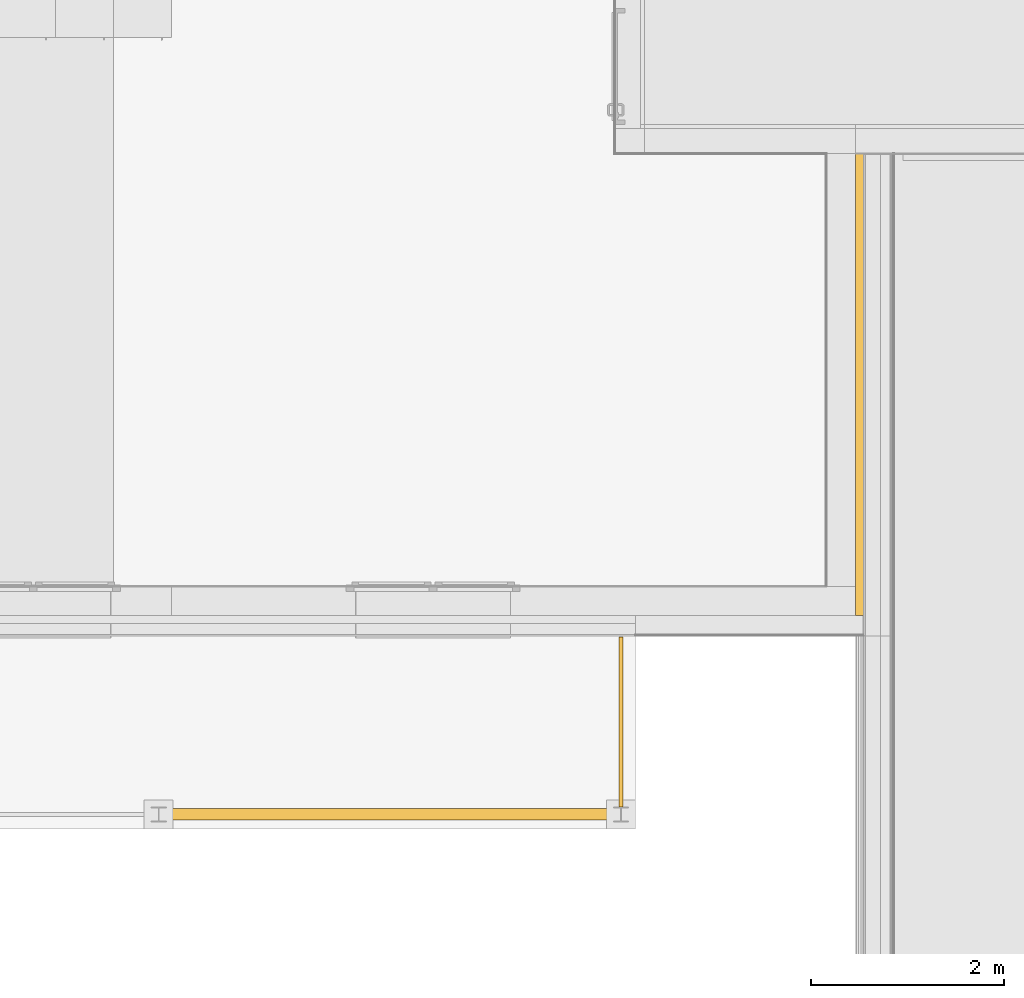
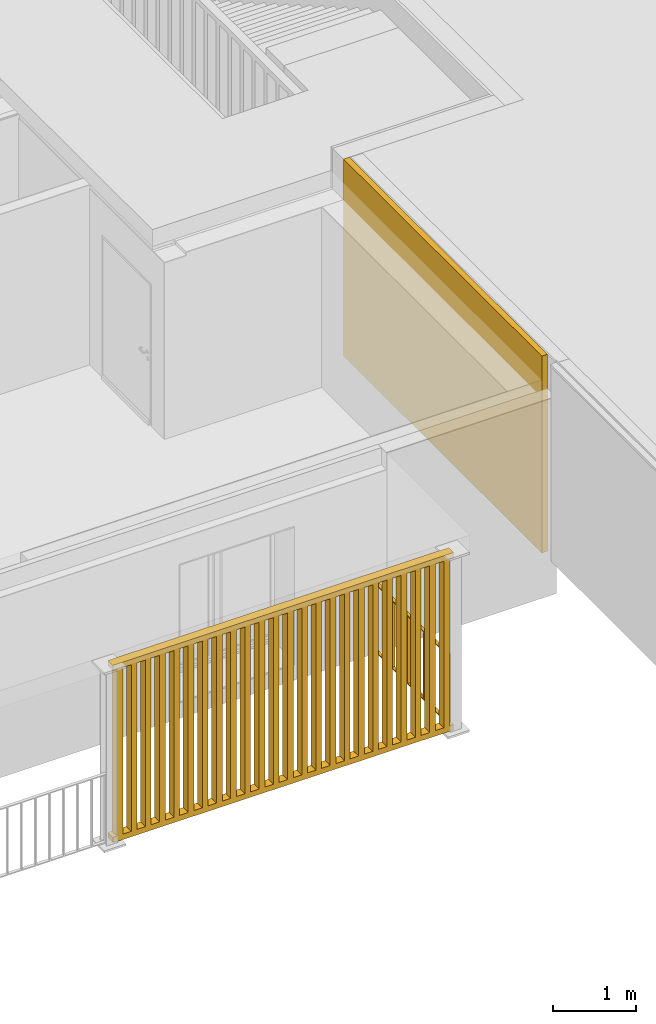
# One storey, part 28 of 34: 2 railings, 1 covering.
"""IFC4 building model written with IfcOpenShell, lengths in millimetres."""

from ifc_helpers import new_model, entity, si_unit, converted_unit, derived_unit, direction, frame, origin_with_axes, place, context, subcontext, project, spatial, polygons, material, constituent, constituent_set, type_object, element, save


model = new_model("IFC4")

# Units and contexts
model_context = context("Model", 3, precision=0.01, world=origin_with_axes(), true_north=direction((0.0, 1.0)))
body_context = subcontext(model_context, "Body", "Model", "MODEL_VIEW")
ifc_project = project(units=[si_unit("LENGTHUNIT", "METRE", prefix="MILLI"), si_unit("AREAUNIT", "SQUARE_METRE"), si_unit("VOLUMEUNIT", "CUBIC_METRE"), converted_unit("PLANEANGLEUNIT", "DEGREE", entity("IfcPlaneAngleMeasure", 0.0174532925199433), si_unit("PLANEANGLEUNIT", "RADIAN"), dimensions=[0, 0, 0, 0, 0, 0, 0]), converted_unit("TIMEUNIT", "Year", entity("IfcTimeMeasure", 31557600.0), si_unit("TIMEUNIT", "SECOND"), dimensions=[0, 0, 1, 0, 0, 0, 0]), si_unit("MASSUNIT", "GRAM", prefix="KILO"), si_unit("THERMODYNAMICTEMPERATUREUNIT", "DEGREE_CELSIUS"), si_unit("LUMINOUSINTENSITYUNIT", "LUMEN"), si_unit("ENERGYUNIT", "JOULE", prefix="MEGA"), derived_unit("THERMALCONDUCTANCEUNIT", [(si_unit("POWERUNIT", "WATT"), 1), (si_unit("LENGTHUNIT", "METRE"), -1), (si_unit("THERMODYNAMICTEMPERATUREUNIT", "KELVIN"), -1)]), derived_unit("SPECIFICHEATCAPACITYUNIT", [(si_unit("ENERGYUNIT", "JOULE"), 1), (si_unit("MASSUNIT", "GRAM", prefix="KILO"), -1), (si_unit("THERMODYNAMICTEMPERATUREUNIT", "KELVIN"), -1)]), derived_unit("MASSDENSITYUNIT", [(si_unit("MASSUNIT", "GRAM", prefix="KILO"), 1), (si_unit("VOLUMEUNIT", "CUBIC_METRE"), -1)])], contexts=[model_context])

# Site, building, storey
site_placement = place(None, origin_with_axes())
site = spatial("IfcSite", under=ifc_project, at=site_placement, Name="Gelände", CompositionType="ELEMENT")
building_placement = place(site_placement, origin_with_axes())
building = spatial("IfcBuilding", under=site, at=building_placement, Name="Gebäude", CompositionType="ELEMENT")
storey_placement = place(building_placement, frame((0.0, 0.0, 2900.0), z_axis=(0.0, 0.0, 1.0), x_axis=(1.0, 0.0, 0.0)))
storey = spatial("IfcBuildingStorey", under=building, at=storey_placement, Name="1.OG", CompositionType="ELEMENT", Elevation=2900.0)

# Railings
ifc_material_1 = material(Name="Stahl")
ifc_constituent_1 = constituent(ifc_material_1, Name="Stahl 1")
ifc_constituent_2 = constituent(ifc_material_1, Name="Stahl 2")
ifc_constituent_3 = constituent(ifc_material_1, Name="Stahl 3")
ifc_constituent_4 = constituent(ifc_material_1, Name="Stahl 4")
ifc_constituent_5 = constituent(ifc_material_1, Name="Stahl 5")
ifc_constituent_6 = constituent(ifc_material_1, Name="Stahl 6")
ifc_constituent_7 = constituent(ifc_material_1, Name="Stahl 7")
ifc_constituent_8 = constituent(ifc_material_1, Name="Stahl 8")
ifc_constituent_9 = constituent(ifc_material_1, Name="Stahl 9")
ifc_constituent_10 = constituent(ifc_material_1, Name="Stahl 10")
ifc_constituent_11 = constituent(ifc_material_1, Name="Stahl 11")
ifc_constituent_12 = constituent(ifc_material_1, Name="Stahl 12")
ifc_constituent_13 = constituent(ifc_material_1, Name="Stahl 13")
ifc_constituent_14 = constituent(ifc_material_1, Name="Stahl 14")
ifc_constituent_set_1 = constituent_set(constituents=[ifc_constituent_1, ifc_constituent_2, ifc_constituent_3, ifc_constituent_4, ifc_constituent_5, ifc_constituent_6, ifc_constituent_7, ifc_constituent_8, ifc_constituent_9, ifc_constituent_10, ifc_constituent_11, ifc_constituent_12, ifc_constituent_13, ifc_constituent_14])
railing_type = type_object("IfcRailingType", Name="Geländerart", PredefinedType="NOTDEFINED")
railing_1_placement = place(storey_placement, frame((15487.99581849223, 21105.09674077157, 49.99999999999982), z_axis=(0.0, 0.0, 1.0), x_axis=(1.0, 0.0, 0.0)))
element("IfcRailing", 1, at=railing_1_placement, inside=storey, type_object=railing_type, material=ifc_constituent_set_1, Name="Geländer-003", PredefinedType="NOTDEFINED", context=body_context, shape_type="Tessellation", body=[
    polygons([(19.99999999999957, 83.49999999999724, 0.0), (-19.99999999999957, 83.49999999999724, 0.0), (-19.99999999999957, 83.49999999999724, 1000.0), (19.99999999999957, 83.49999999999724, 1000.0), (19.99999999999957, 68.49999999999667, 0.0), (-19.99999999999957, 68.49999999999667, 0.0), (-19.99999999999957, 68.49999999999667, 1000.0), (19.99999999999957, 68.49999999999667, 1000.0)], [[[1, 2, 3, 4]], [[1, 5, 6, 2]], [[2, 6, 7, 3]], [[4, 3, 7, 8]], [[5, 1, 4, 8]], [[6, 5, 8, 7]]], closed=True),
    polygons([(-22.50000000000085, 75.99999999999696, 1000.0), (-22.50000000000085, 75.99999999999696, 984.9999999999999), (-22.50000000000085, 68.49999999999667, 984.9999999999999), (-22.50000000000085, 68.49999999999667, 1000.0), (22.50000000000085, 75.99999999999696, 1000.0), (22.50000000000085, 75.99999999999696, 984.9999999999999), (22.50000000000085, 68.49999999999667, 984.9999999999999), (22.50000000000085, 68.49999999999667, 1000.0)], [[[1, 2, 3, 4]], [[1, 5, 6, 2]], [[2, 6, 7, 3]], [[4, 3, 7, 8]], [[5, 1, 4, 8]], [[6, 5, 8, 7]]], closed=True),
    polygons([(19.99999999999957, 1830.000000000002, 0.0), (-19.99999999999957, 1830.000000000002, 0.0), (-19.99999999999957, 1830.000000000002, 1000.0), (19.99999999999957, 1830.000000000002, 1000.0), (19.99999999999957, 1815.000000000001, 0.0), (-19.99999999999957, 1815.000000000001, 0.0), (-19.99999999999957, 1815.000000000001, 1000.0), (19.99999999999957, 1815.000000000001, 1000.0)], [[[1, 2, 3, 4]], [[1, 5, 6, 2]], [[2, 6, 7, 3]], [[4, 3, 7, 8]], [[5, 1, 4, 8]], [[6, 5, 8, 7]]], closed=True),
    polygons([(22.50000000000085, 1822.500000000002, 1000.0), (22.50000000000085, 1822.500000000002, 984.9999999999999), (22.50000000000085, 1830.000000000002, 984.9999999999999), (22.50000000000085, 1830.000000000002, 1000.0), (-22.50000000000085, 1822.500000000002, 1000.0), (-22.50000000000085, 1822.500000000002, 984.9999999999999), (-22.50000000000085, 1830.000000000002, 984.9999999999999), (-22.50000000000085, 1830.000000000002, 1000.0)], [[[1, 2, 3, 4]], [[1, 5, 6, 2]], [[2, 6, 7, 3]], [[4, 3, 7, 8]], [[5, 1, 4, 8]], [[6, 5, 8, 7]]], closed=True),
    polygons([(22.50000000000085, 75.99999999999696, 0.9999999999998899), (22.50000000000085, 75.99999999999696, -14.00000000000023), (22.50000000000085, 1822.500000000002, -14.00000000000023), (22.50000000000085, 1822.500000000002, 0.9999999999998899), (-22.50000000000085, 75.99999999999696, 0.9999999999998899), (-22.50000000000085, 75.99999999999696, -14.00000000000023), (-22.50000000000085, 1822.500000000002, -14.00000000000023), (-22.50000000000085, 1822.500000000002, 0.9999999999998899)], [[[1, 2, 3, 4]], [[1, 5, 6, 2]], [[2, 6, 7, 3]], [[4, 3, 7, 8]], [[5, 1, 4, 8]], [[6, 5, 8, 7]]], closed=True),
    polygons([(22.50000000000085, 75.99999999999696, 1000.0), (22.50000000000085, 75.99999999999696, 984.9999999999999), (22.50000000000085, 1822.500000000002, 984.9999999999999), (22.50000000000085, 1822.500000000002, 1000.0), (-22.50000000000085, 75.99999999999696, 1000.0), (-22.50000000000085, 75.99999999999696, 984.9999999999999), (-22.50000000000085, 1822.500000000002, 984.9999999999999), (-22.50000000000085, 1822.500000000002, 1000.0)], [[[1, 2, 3, 4]], [[1, 5, 6, 2]], [[2, 6, 7, 3]], [[4, 3, 7, 8]], [[5, 1, 4, 8]], [[6, 5, 8, 7]]], closed=True),
    polygons([(22.50000000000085, 277.5555555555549, 0.0), (-22.50000000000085, 277.5555555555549, 0.0), (-22.50000000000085, 277.5555555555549, 985.2293691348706), (22.49999999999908, 277.5555555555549, 985.2293691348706), (22.50000000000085, 262.5555555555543, 0.0), (-22.50000000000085, 262.5555555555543, 0.0), (-22.50000000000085, 262.5555555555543, 985.2293691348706), (22.49999999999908, 262.5555555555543, 985.2293691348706)], [[[1, 2, 3, 4]], [[1, 5, 6, 2]], [[2, 6, 7, 3]], [[4, 3, 7, 8]], [[5, 1, 4, 8]], [[6, 5, 8, 7]]], closed=True),
    polygons([(22.50000000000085, 471.611111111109, 0.0), (-22.50000000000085, 471.611111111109, 0.0), (-22.50000000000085, 471.611111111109, 985.2293691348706), (22.49999999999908, 471.611111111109, 985.2293691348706), (22.50000000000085, 456.6111111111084, 0.0), (-22.50000000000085, 456.6111111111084, 0.0), (-22.50000000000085, 456.6111111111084, 985.2293691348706), (22.49999999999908, 456.6111111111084, 985.2293691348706)], [[[1, 2, 3, 4]], [[1, 5, 6, 2]], [[2, 6, 7, 3]], [[4, 3, 7, 8]], [[5, 1, 4, 8]], [[6, 5, 8, 7]]], closed=True),
    polygons([(22.50000000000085, 665.6666666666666, 0.0), (-22.50000000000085, 665.6666666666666, 0.0), (-22.50000000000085, 665.6666666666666, 985.2293691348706), (22.49999999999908, 665.6666666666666, 985.2293691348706), (22.50000000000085, 650.6666666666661, 0.0), (-22.50000000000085, 650.6666666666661, 0.0), (-22.50000000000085, 650.6666666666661, 985.2293691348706), (22.49999999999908, 650.6666666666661, 985.2293691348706)], [[[1, 2, 3, 4]], [[1, 5, 6, 2]], [[2, 6, 7, 3]], [[4, 3, 7, 8]], [[5, 1, 4, 8]], [[6, 5, 8, 7]]], closed=True),
    polygons([(22.50000000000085, 859.7222222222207, 0.0), (-22.50000000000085, 859.7222222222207, 0.0), (-22.50000000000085, 859.7222222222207, 985.2293691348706), (22.49999999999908, 859.7222222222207, 985.2293691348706), (22.50000000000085, 844.7222222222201, 0.0), (-22.50000000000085, 844.7222222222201, 0.0), (-22.50000000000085, 844.7222222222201, 985.2293691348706), (22.49999999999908, 844.7222222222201, 985.2293691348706)], [[[1, 2, 3, 4]], [[1, 5, 6, 2]], [[2, 6, 7, 3]], [[4, 3, 7, 8]], [[5, 1, 4, 8]], [[6, 5, 8, 7]]], closed=True),
    polygons([(22.50000000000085, 1053.777777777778, 0.0), (-22.50000000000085, 1053.777777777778, 0.0), (-22.50000000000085, 1053.777777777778, 985.2293691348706), (22.49999999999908, 1053.777777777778, 985.2293691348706), (22.50000000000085, 1038.777777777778, 0.0), (-22.50000000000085, 1038.777777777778, 0.0), (-22.50000000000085, 1038.777777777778, 985.2293691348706), (22.49999999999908, 1038.777777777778, 985.2293691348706)], [[[1, 2, 3, 4]], [[1, 5, 6, 2]], [[2, 6, 7, 3]], [[4, 3, 7, 8]], [[5, 1, 4, 8]], [[6, 5, 8, 7]]], closed=True),
    polygons([(22.50000000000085, 1247.833333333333, 0.0), (-22.50000000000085, 1247.833333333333, 0.0), (-22.50000000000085, 1247.833333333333, 985.2293691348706), (22.49999999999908, 1247.833333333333, 985.2293691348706), (22.50000000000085, 1232.833333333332, 0.0), (-22.50000000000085, 1232.833333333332, 0.0), (-22.50000000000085, 1232.833333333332, 985.2293691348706), (22.49999999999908, 1232.833333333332, 985.2293691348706)], [[[1, 2, 3, 4]], [[1, 5, 6, 2]], [[2, 6, 7, 3]], [[4, 3, 7, 8]], [[5, 1, 4, 8]], [[6, 5, 8, 7]]], closed=True),
    polygons([(22.50000000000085, 1441.88888888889, 0.0), (-22.50000000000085, 1441.88888888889, 0.0), (-22.50000000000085, 1441.88888888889, 985.2293691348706), (22.49999999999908, 1441.88888888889, 985.2293691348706), (22.50000000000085, 1426.88888888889, 0.0), (-22.50000000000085, 1426.88888888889, 0.0), (-22.50000000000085, 1426.88888888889, 985.2293691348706), (22.49999999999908, 1426.88888888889, 985.2293691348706)], [[[1, 2, 3, 4]], [[1, 5, 6, 2]], [[2, 6, 7, 3]], [[4, 3, 7, 8]], [[5, 1, 4, 8]], [[6, 5, 8, 7]]], closed=True),
    polygons([(22.50000000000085, 1635.944444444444, 0.0), (-22.50000000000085, 1635.944444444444, 0.0), (-22.50000000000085, 1635.944444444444, 985.2293691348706), (22.49999999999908, 1635.944444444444, 985.2293691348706), (22.50000000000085, 1620.944444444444, 0.0), (-22.50000000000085, 1620.944444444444, 0.0), (-22.50000000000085, 1620.944444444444, 985.2293691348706), (22.49999999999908, 1620.944444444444, 985.2293691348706)], [[[1, 2, 3, 4]], [[1, 5, 6, 2]], [[2, 6, 7, 3]], [[4, 3, 7, 8]], [[5, 1, 4, 8]], [[6, 5, 8, 7]]], closed=True),
])
ifc_material_2 = material(Name="Vollholzwerkstoff")
ifc_constituent_15 = constituent(ifc_material_2, Name="Vollholzwerkstoff 1")
ifc_constituent_16 = constituent(ifc_material_2, Name="Vollholzwerkstoff 2")
ifc_constituent_17 = constituent(ifc_material_2, Name="Vollholzwerkstoff 3")
ifc_constituent_18 = constituent(ifc_material_2, Name="Vollholzwerkstoff 4")
ifc_constituent_19 = constituent(ifc_material_2, Name="Vollholzwerkstoff 5")
ifc_constituent_20 = constituent(ifc_material_2, Name="Vollholzwerkstoff 6")
ifc_constituent_21 = constituent(ifc_material_2, Name="Vollholzwerkstoff 7")
ifc_constituent_22 = constituent(ifc_material_2, Name="Vollholzwerkstoff 8")
ifc_constituent_23 = constituent(ifc_material_2, Name="Vollholzwerkstoff 9")
ifc_constituent_24 = constituent(ifc_material_2, Name="Vollholzwerkstoff 10")
ifc_constituent_25 = constituent(ifc_material_2, Name="Vollholzwerkstoff 11")
ifc_constituent_26 = constituent(ifc_material_2, Name="Vollholzwerkstoff 12")
ifc_constituent_27 = constituent(ifc_material_2, Name="Vollholzwerkstoff 13")
ifc_constituent_28 = constituent(ifc_material_2, Name="Vollholzwerkstoff 14")
ifc_constituent_29 = constituent(ifc_material_2, Name="Vollholzwerkstoff 15")
ifc_constituent_30 = constituent(ifc_material_2, Name="Vollholzwerkstoff 16")
ifc_constituent_31 = constituent(ifc_material_2, Name="Vollholzwerkstoff 17")
ifc_constituent_32 = constituent(ifc_material_2, Name="Vollholzwerkstoff 18")
ifc_constituent_33 = constituent(ifc_material_2, Name="Vollholzwerkstoff 19")
ifc_constituent_34 = constituent(ifc_material_2, Name="Vollholzwerkstoff 20")
ifc_constituent_35 = constituent(ifc_material_2, Name="Vollholzwerkstoff 21")
ifc_constituent_36 = constituent(ifc_material_2, Name="Vollholzwerkstoff 22")
ifc_constituent_37 = constituent(ifc_material_2, Name="Vollholzwerkstoff 23")
ifc_constituent_38 = constituent(ifc_material_2, Name="Vollholzwerkstoff 24")
ifc_constituent_39 = constituent(ifc_material_2, Name="Vollholzwerkstoff 25")
ifc_constituent_40 = constituent(ifc_material_2, Name="Vollholzwerkstoff 26")
ifc_constituent_set_2 = constituent_set(constituents=[ifc_constituent_15, ifc_constituent_16, ifc_constituent_17, ifc_constituent_18, ifc_constituent_19, ifc_constituent_20, ifc_constituent_21, ifc_constituent_22, ifc_constituent_23, ifc_constituent_24, ifc_constituent_25, ifc_constituent_26, ifc_constituent_27, ifc_constituent_28, ifc_constituent_29, ifc_constituent_30, ifc_constituent_31, ifc_constituent_32, ifc_constituent_33, ifc_constituent_34, ifc_constituent_35, ifc_constituent_36, ifc_constituent_37, ifc_constituent_38, ifc_constituent_39, ifc_constituent_40])
railing_2_placement = place(storey_placement, frame((10578.1363564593, 21097.59674077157, 74.99999999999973), z_axis=(0.0, 0.0, 1.0), x_axis=(1.0, 0.0, 0.0)))
element("IfcRailing", 2, at=railing_2_placement, inside=storey, type_object=railing_type, material=ifc_constituent_set_2, Name="Geländer-001", PredefinedType="NOTDEFINED", context=body_context, shape_type="Tessellation", body=[
    polygons([(139.0594620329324, -59.99999999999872, 2574.999999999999), (139.0594620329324, -59.99999999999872, 2494.999999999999), (4889.859462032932, -59.99999999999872, 2494.999999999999), (4889.859462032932, -59.99999999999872, 2574.999999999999), (139.0594620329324, 59.99999999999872, 2574.999999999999), (139.0594620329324, 59.99999999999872, 2494.999999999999), (4889.859462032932, 59.99999999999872, 2494.999999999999), (4889.859462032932, 59.99999999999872, 2574.999999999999)], [[[1, 2, 3, 4]], [[1, 5, 6, 2]], [[2, 6, 7, 3]], [[4, 3, 7, 8]], [[5, 1, 4, 8]], [[6, 5, 8, 7]]], closed=True),
    polygons([(139.0594620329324, -59.99999999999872, 40.00000000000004), (139.0594620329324, -59.99999999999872, -40.00000000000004), (4889.859462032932, -59.99999999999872, -40.00000000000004), (4889.859462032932, -59.99999999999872, 40.00000000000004), (139.0594620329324, 59.99999999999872, 40.00000000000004), (139.0594620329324, 59.99999999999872, -40.00000000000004), (4889.859462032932, 59.99999999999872, -40.00000000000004), (4889.859462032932, 59.99999999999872, 40.00000000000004)], [[[1, 2, 3, 4]], [[1, 5, 6, 2]], [[2, 6, 7, 3]], [[4, 3, 7, 8]], [[5, 1, 4, 8]], [[6, 5, 8, 7]]], closed=True),
    polygons([(277.0914620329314, -59.99999999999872, 40.00000000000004), (277.0914620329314, 59.99999999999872, 40.00000000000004), (277.0914620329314, 59.99999999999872, 2494.999999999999), (277.0914620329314, -59.99999999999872, 2494.999999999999), (197.0914620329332, -59.99999999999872, 40.00000000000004), (197.0914620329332, 59.99999999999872, 40.00000000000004), (197.0914620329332, 59.99999999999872, 2494.999999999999), (197.0914620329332, -59.99999999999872, 2494.999999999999)], [[[1, 2, 3, 4]], [[1, 5, 6, 2]], [[2, 6, 7, 3]], [[4, 3, 7, 8]], [[5, 1, 4, 8]], [[6, 5, 8, 7]]], closed=True),
    polygons([(475.123462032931, -59.99999999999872, 40.00000000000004), (475.123462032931, 59.99999999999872, 40.00000000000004), (475.123462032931, 59.99999999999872, 2494.999999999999), (475.123462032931, -59.99999999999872, 2494.999999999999), (395.1234620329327, -59.99999999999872, 40.00000000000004), (395.1234620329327, 59.99999999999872, 40.00000000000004), (395.1234620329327, 59.99999999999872, 2494.999999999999), (395.1234620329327, -59.99999999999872, 2494.999999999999)], [[[1, 2, 3, 4]], [[1, 5, 6, 2]], [[2, 6, 7, 3]], [[4, 3, 7, 8]], [[5, 1, 4, 8]], [[6, 5, 8, 7]]], closed=True),
    polygons([(673.1554620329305, -59.99999999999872, 40.00000000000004), (673.1554620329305, 59.99999999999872, 40.00000000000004), (673.1554620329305, 59.99999999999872, 2494.999999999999), (673.1554620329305, -59.99999999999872, 2494.999999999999), (593.1554620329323, -59.99999999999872, 40.00000000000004), (593.1554620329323, 59.99999999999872, 40.00000000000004), (593.1554620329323, 59.99999999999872, 2494.999999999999), (593.1554620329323, -59.99999999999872, 2494.999999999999)], [[[1, 2, 3, 4]], [[1, 5, 6, 2]], [[2, 6, 7, 3]], [[4, 3, 7, 8]], [[5, 1, 4, 8]], [[6, 5, 8, 7]]], closed=True),
    polygons([(871.1874620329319, -59.99999999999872, 40.00000000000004), (871.1874620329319, 59.99999999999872, 40.00000000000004), (871.1874620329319, 59.99999999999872, 2494.999999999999), (871.1874620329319, -59.99999999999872, 2494.999999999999), (791.1874620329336, -59.99999999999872, 40.00000000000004), (791.1874620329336, 59.99999999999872, 40.00000000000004), (791.1874620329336, 59.99999999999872, 2494.999999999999), (791.1874620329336, -59.99999999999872, 2494.999999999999)], [[[1, 2, 3, 4]], [[1, 5, 6, 2]], [[2, 6, 7, 3]], [[4, 3, 7, 8]], [[5, 1, 4, 8]], [[6, 5, 8, 7]]], closed=True),
    polygons([(1069.219462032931, -59.99999999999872, 40.00000000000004), (1069.219462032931, 59.99999999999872, 40.00000000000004), (1069.219462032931, 59.99999999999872, 2494.999999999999), (1069.219462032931, -59.99999999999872, 2494.999999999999), (989.219462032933, -59.99999999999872, 40.00000000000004), (989.219462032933, 59.99999999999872, 40.00000000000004), (989.219462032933, 59.99999999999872, 2494.999999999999), (989.219462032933, -59.99999999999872, 2494.999999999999)], [[[1, 2, 3, 4]], [[1, 5, 6, 2]], [[2, 6, 7, 3]], [[4, 3, 7, 8]], [[5, 1, 4, 8]], [[6, 5, 8, 7]]], closed=True),
    polygons([(1267.251462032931, -59.99999999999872, 40.00000000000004), (1267.251462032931, 59.99999999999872, 40.00000000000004), (1267.251462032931, 59.99999999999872, 2494.999999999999), (1267.251462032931, -59.99999999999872, 2494.999999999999), (1187.251462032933, -59.99999999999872, 40.00000000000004), (1187.251462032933, 59.99999999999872, 40.00000000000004), (1187.251462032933, 59.99999999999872, 2494.999999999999), (1187.251462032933, -59.99999999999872, 2494.999999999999)], [[[1, 2, 3, 4]], [[1, 5, 6, 2]], [[2, 6, 7, 3]], [[4, 3, 7, 8]], [[5, 1, 4, 8]], [[6, 5, 8, 7]]], closed=True),
    polygons([(1465.28346203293, -59.99999999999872, 40.00000000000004), (1465.28346203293, 59.99999999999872, 40.00000000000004), (1465.28346203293, 59.99999999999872, 2494.999999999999), (1465.28346203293, -59.99999999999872, 2494.999999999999), (1385.283462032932, -59.99999999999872, 40.00000000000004), (1385.283462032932, 59.99999999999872, 40.00000000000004), (1385.283462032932, 59.99999999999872, 2494.999999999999), (1385.283462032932, -59.99999999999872, 2494.999999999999)], [[[1, 2, 3, 4]], [[1, 5, 6, 2]], [[2, 6, 7, 3]], [[4, 3, 7, 8]], [[5, 1, 4, 8]], [[6, 5, 8, 7]]], closed=True),
    polygons([(1663.315462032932, -59.99999999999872, 40.00000000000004), (1663.315462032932, 59.99999999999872, 40.00000000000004), (1663.315462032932, 59.99999999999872, 2494.999999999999), (1663.315462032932, -59.99999999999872, 2494.999999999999), (1583.315462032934, -59.99999999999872, 40.00000000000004), (1583.315462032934, 59.99999999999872, 40.00000000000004), (1583.315462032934, 59.99999999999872, 2494.999999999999), (1583.315462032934, -59.99999999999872, 2494.999999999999)], [[[1, 2, 3, 4]], [[1, 5, 6, 2]], [[2, 6, 7, 3]], [[4, 3, 7, 8]], [[5, 1, 4, 8]], [[6, 5, 8, 7]]], closed=True),
    polygons([(1861.347462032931, -59.99999999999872, 40.00000000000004), (1861.347462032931, 59.99999999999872, 40.00000000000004), (1861.347462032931, 59.99999999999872, 2494.999999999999), (1861.347462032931, -59.99999999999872, 2494.999999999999), (1781.347462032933, -59.99999999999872, 40.00000000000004), (1781.347462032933, 59.99999999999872, 40.00000000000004), (1781.347462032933, 59.99999999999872, 2494.999999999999), (1781.347462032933, -59.99999999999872, 2494.999999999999)], [[[1, 2, 3, 4]], [[1, 5, 6, 2]], [[2, 6, 7, 3]], [[4, 3, 7, 8]], [[5, 1, 4, 8]], [[6, 5, 8, 7]]], closed=True),
    polygons([(2059.379462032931, -59.99999999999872, 40.00000000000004), (2059.379462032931, 59.99999999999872, 40.00000000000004), (2059.379462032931, 59.99999999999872, 2494.999999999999), (2059.379462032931, -59.99999999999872, 2494.999999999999), (1979.379462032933, -59.99999999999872, 40.00000000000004), (1979.379462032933, 59.99999999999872, 40.00000000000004), (1979.379462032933, 59.99999999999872, 2494.999999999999), (1979.379462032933, -59.99999999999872, 2494.999999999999)], [[[1, 2, 3, 4]], [[1, 5, 6, 2]], [[2, 6, 7, 3]], [[4, 3, 7, 8]], [[5, 1, 4, 8]], [[6, 5, 8, 7]]], closed=True),
    polygons([(2257.411462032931, -59.99999999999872, 40.00000000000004), (2257.411462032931, 59.99999999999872, 40.00000000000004), (2257.411462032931, 59.99999999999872, 2494.999999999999), (2257.411462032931, -59.99999999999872, 2494.999999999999), (2177.411462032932, -59.99999999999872, 40.00000000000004), (2177.411462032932, 59.99999999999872, 40.00000000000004), (2177.411462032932, 59.99999999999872, 2494.999999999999), (2177.411462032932, -59.99999999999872, 2494.999999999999)], [[[1, 2, 3, 4]], [[1, 5, 6, 2]], [[2, 6, 7, 3]], [[4, 3, 7, 8]], [[5, 1, 4, 8]], [[6, 5, 8, 7]]], closed=True),
    polygons([(2455.443462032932, -59.99999999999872, 40.00000000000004), (2455.443462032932, 59.99999999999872, 40.00000000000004), (2455.443462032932, 59.99999999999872, 2494.999999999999), (2455.443462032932, -59.99999999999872, 2494.999999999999), (2375.443462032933, -59.99999999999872, 40.00000000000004), (2375.443462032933, 59.99999999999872, 40.00000000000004), (2375.443462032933, 59.99999999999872, 2494.999999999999), (2375.443462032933, -59.99999999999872, 2494.999999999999)], [[[1, 2, 3, 4]], [[1, 5, 6, 2]], [[2, 6, 7, 3]], [[4, 3, 7, 8]], [[5, 1, 4, 8]], [[6, 5, 8, 7]]], closed=True),
    polygons([(2653.475462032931, -59.99999999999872, 40.00000000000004), (2653.475462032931, 59.99999999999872, 40.00000000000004), (2653.475462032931, 59.99999999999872, 2494.999999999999), (2653.475462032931, -59.99999999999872, 2494.999999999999), (2573.475462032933, -59.99999999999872, 40.00000000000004), (2573.475462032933, 59.99999999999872, 40.00000000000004), (2573.475462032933, 59.99999999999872, 2494.999999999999), (2573.475462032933, -59.99999999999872, 2494.999999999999)], [[[1, 2, 3, 4]], [[1, 5, 6, 2]], [[2, 6, 7, 3]], [[4, 3, 7, 8]], [[5, 1, 4, 8]], [[6, 5, 8, 7]]], closed=True),
    polygons([(2851.507462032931, -59.99999999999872, 40.00000000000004), (2851.507462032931, 59.99999999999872, 40.00000000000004), (2851.507462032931, 59.99999999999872, 2494.999999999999), (2851.507462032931, -59.99999999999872, 2494.999999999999), (2771.507462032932, -59.99999999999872, 40.00000000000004), (2771.507462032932, 59.99999999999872, 40.00000000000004), (2771.507462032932, 59.99999999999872, 2494.999999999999), (2771.507462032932, -59.99999999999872, 2494.999999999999)], [[[1, 2, 3, 4]], [[1, 5, 6, 2]], [[2, 6, 7, 3]], [[4, 3, 7, 8]], [[5, 1, 4, 8]], [[6, 5, 8, 7]]], closed=True),
    polygons([(3049.53946203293, -59.99999999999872, 40.00000000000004), (3049.53946203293, 59.99999999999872, 40.00000000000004), (3049.53946203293, 59.99999999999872, 2494.999999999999), (3049.53946203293, -59.99999999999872, 2494.999999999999), (2969.539462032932, -59.99999999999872, 40.00000000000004), (2969.539462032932, 59.99999999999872, 40.00000000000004), (2969.539462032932, 59.99999999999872, 2494.999999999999), (2969.539462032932, -59.99999999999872, 2494.999999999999)], [[[1, 2, 3, 4]], [[1, 5, 6, 2]], [[2, 6, 7, 3]], [[4, 3, 7, 8]], [[5, 1, 4, 8]], [[6, 5, 8, 7]]], closed=True),
    polygons([(3247.57146203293, -59.99999999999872, 40.00000000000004), (3247.57146203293, 59.99999999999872, 40.00000000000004), (3247.57146203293, 59.99999999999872, 2494.999999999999), (3247.57146203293, -59.99999999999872, 2494.999999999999), (3167.571462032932, -59.99999999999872, 40.00000000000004), (3167.571462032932, 59.99999999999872, 40.00000000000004), (3167.571462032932, 59.99999999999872, 2494.999999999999), (3167.571462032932, -59.99999999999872, 2494.999999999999)], [[[1, 2, 3, 4]], [[1, 5, 6, 2]], [[2, 6, 7, 3]], [[4, 3, 7, 8]], [[5, 1, 4, 8]], [[6, 5, 8, 7]]], closed=True),
    polygons([(3445.603462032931, -59.99999999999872, 40.00000000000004), (3445.603462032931, 59.99999999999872, 40.00000000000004), (3445.603462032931, 59.99999999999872, 2494.999999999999), (3445.603462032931, -59.99999999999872, 2494.999999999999), (3365.603462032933, -59.99999999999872, 40.00000000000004), (3365.603462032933, 59.99999999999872, 40.00000000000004), (3365.603462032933, 59.99999999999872, 2494.999999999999), (3365.603462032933, -59.99999999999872, 2494.999999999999)], [[[1, 2, 3, 4]], [[1, 5, 6, 2]], [[2, 6, 7, 3]], [[4, 3, 7, 8]], [[5, 1, 4, 8]], [[6, 5, 8, 7]]], closed=True),
    polygons([(3643.635462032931, -59.99999999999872, 40.00000000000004), (3643.635462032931, 59.99999999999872, 40.00000000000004), (3643.635462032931, 59.99999999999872, 2494.999999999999), (3643.635462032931, -59.99999999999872, 2494.999999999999), (3563.635462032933, -59.99999999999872, 40.00000000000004), (3563.635462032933, 59.99999999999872, 40.00000000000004), (3563.635462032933, 59.99999999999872, 2494.999999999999), (3563.635462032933, -59.99999999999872, 2494.999999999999)], [[[1, 2, 3, 4]], [[1, 5, 6, 2]], [[2, 6, 7, 3]], [[4, 3, 7, 8]], [[5, 1, 4, 8]], [[6, 5, 8, 7]]], closed=True),
    polygons([(3841.66746203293, -59.99999999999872, 40.00000000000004), (3841.66746203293, 59.99999999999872, 40.00000000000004), (3841.66746203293, 59.99999999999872, 2494.999999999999), (3841.66746203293, -59.99999999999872, 2494.999999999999), (3761.667462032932, -59.99999999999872, 40.00000000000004), (3761.667462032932, 59.99999999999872, 40.00000000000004), (3761.667462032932, 59.99999999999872, 2494.999999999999), (3761.667462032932, -59.99999999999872, 2494.999999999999)], [[[1, 2, 3, 4]], [[1, 5, 6, 2]], [[2, 6, 7, 3]], [[4, 3, 7, 8]], [[5, 1, 4, 8]], [[6, 5, 8, 7]]], closed=True),
    polygons([(4039.699462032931, -59.99999999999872, 40.00000000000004), (4039.699462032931, 59.99999999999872, 40.00000000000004), (4039.699462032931, 59.99999999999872, 2494.999999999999), (4039.699462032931, -59.99999999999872, 2494.999999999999), (3959.699462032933, -59.99999999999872, 40.00000000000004), (3959.699462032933, 59.99999999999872, 40.00000000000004), (3959.699462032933, 59.99999999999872, 2494.999999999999), (3959.699462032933, -59.99999999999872, 2494.999999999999)], [[[1, 2, 3, 4]], [[1, 5, 6, 2]], [[2, 6, 7, 3]], [[4, 3, 7, 8]], [[5, 1, 4, 8]], [[6, 5, 8, 7]]], closed=True),
    polygons([(4237.731462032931, -59.99999999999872, 40.00000000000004), (4237.731462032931, 59.99999999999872, 40.00000000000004), (4237.731462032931, 59.99999999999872, 2494.999999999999), (4237.731462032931, -59.99999999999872, 2494.999999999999), (4157.731462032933, -59.99999999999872, 40.00000000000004), (4157.731462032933, 59.99999999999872, 40.00000000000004), (4157.731462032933, 59.99999999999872, 2494.999999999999), (4157.731462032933, -59.99999999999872, 2494.999999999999)], [[[1, 2, 3, 4]], [[1, 5, 6, 2]], [[2, 6, 7, 3]], [[4, 3, 7, 8]], [[5, 1, 4, 8]], [[6, 5, 8, 7]]], closed=True),
    polygons([(4435.763462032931, -59.99999999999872, 40.00000000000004), (4435.763462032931, 59.99999999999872, 40.00000000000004), (4435.763462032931, 59.99999999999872, 2494.999999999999), (4435.763462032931, -59.99999999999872, 2494.999999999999), (4355.763462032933, -59.99999999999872, 40.00000000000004), (4355.763462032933, 59.99999999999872, 40.00000000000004), (4355.763462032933, 59.99999999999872, 2494.999999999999), (4355.763462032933, -59.99999999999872, 2494.999999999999)], [[[1, 2, 3, 4]], [[1, 5, 6, 2]], [[2, 6, 7, 3]], [[4, 3, 7, 8]], [[5, 1, 4, 8]], [[6, 5, 8, 7]]], closed=True),
    polygons([(4633.79546203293, -59.99999999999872, 40.00000000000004), (4633.79546203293, 59.99999999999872, 40.00000000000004), (4633.79546203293, 59.99999999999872, 2494.999999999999), (4633.79546203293, -59.99999999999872, 2494.999999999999), (4553.795462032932, -59.99999999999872, 40.00000000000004), (4553.795462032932, 59.99999999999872, 40.00000000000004), (4553.795462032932, 59.99999999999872, 2494.999999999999), (4553.795462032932, -59.99999999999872, 2494.999999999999)], [[[1, 2, 3, 4]], [[1, 5, 6, 2]], [[2, 6, 7, 3]], [[4, 3, 7, 8]], [[5, 1, 4, 8]], [[6, 5, 8, 7]]], closed=True),
    polygons([(4831.827462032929, -59.99999999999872, 40.00000000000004), (4831.827462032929, 59.99999999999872, 40.00000000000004), (4831.827462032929, 59.99999999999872, 2494.999999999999), (4831.827462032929, -59.99999999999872, 2494.999999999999), (4751.827462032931, -59.99999999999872, 40.00000000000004), (4751.827462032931, 59.99999999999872, 40.00000000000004), (4751.827462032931, 59.99999999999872, 2494.999999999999), (4751.827462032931, -59.99999999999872, 2494.999999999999)], [[[1, 2, 3, 4]], [[1, 5, 6, 2]], [[2, 6, 7, 3]], [[4, 3, 7, 8]], [[5, 1, 4, 8]], [[6, 5, 8, 7]]], closed=True),
])

# Covering
ifc_material_3 = material(Name="Dämmung Innen")
covering_type = type_object("IfcCoveringType", Name="Dämmung Innen 80", PredefinedType="NOTDEFINED")
covering_placement = place(storey_placement, frame((17999.99744477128, 27947.49728131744, 499.9999999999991), z_axis=(0.0, 0.0, 1.0), x_axis=(0.0, -1.0, 0.0)))
element("IfcCovering", 3, at=covering_placement, inside=storey, type_object=covering_type, material=ifc_material_3, Name="Wand-014", PredefinedType="NOTDEFINED", context=body_context, shape_type="Tessellation", body=[
    polygons([(0.0, -79.9999999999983, 2899.999999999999), (4789.900540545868, -80.00000000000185, 2899.999999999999), (4789.900540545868, 0.0, 2899.999999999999), (0.0, 0.0, 2899.999999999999), (0.0, -79.9999999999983, 0.0), (4789.900540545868, -80.00000000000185, 0.0), (4789.900540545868, 0.0, 0.0), (0.0, 0.0, 0.0)], [[[1, 2, 3, 4]], [[5, 6, 2, 1]], [[3, 2, 6, 7]], [[4, 3, 7, 8]], [[5, 1, 4, 8]], [[8, 7, 6, 5]]], closed=True),
])

save(model, "model.ifc")
